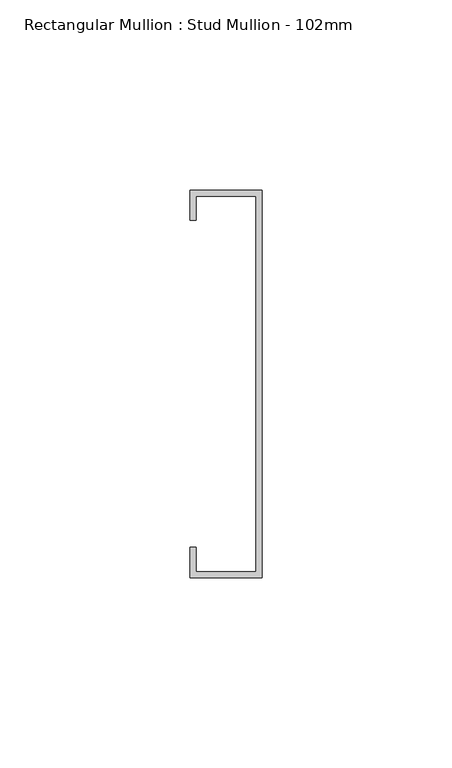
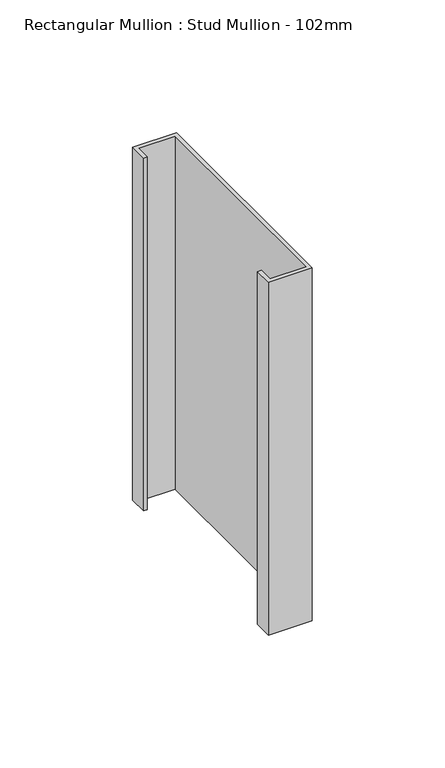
"""IFC4 building model written with IfcOpenShell, lengths in millimetres: member geometry, Rectangular Mullion : Stud Mullion - 102mm."""

from ifc_helpers import new_model, si_unit, frame, origin, place, context, project, spatial, polyline, outline, extrude, source, transform, mapped, element, save


def rectangular_mullion_stud_mullion_102mm_f96a71aa(model_context):
    return source(origin(), model_context, "Body", "SweptSolid", [
        extrude(outline(polyline([(-19.0, 43.0), (-19.0, 51.0), (0.0, 51.0), (0.0, -51.0), (-19.0, -51.0), (-19.0, -43.0), (-17.4, -43.0), (-17.4, -49.4), (-1.6, -49.4), (-1.6, 49.4), (-17.4, 49.4), (-17.4, 43.0), (-19.0, 43.0)])), frame((0.0, 0.0, -161.9999997), z_axis=(0.0, 0.0, 1.0), x_axis=(1.0, 0.0, 0.0)), (0.0, 0.0, 1.0), 161.9999997),
    ])


if __name__ == "__main__":
    model = new_model("IFC4")
    model_context = context("Model", 3, world=origin())
    ifc_project = project(units=[si_unit("LENGTHUNIT", "METRE", prefix="MILLI")], contexts=[model_context])
    site = spatial("IfcSite", under=ifc_project)
    building = spatial("IfcBuilding", under=site)
    placement = place(None, origin())
    rectangular_mullion_stud_mullion_102mm_shape = rectangular_mullion_stud_mullion_102mm_f96a71aa(model_context)
    element("IfcMember", 1, ObjectType="Rectangular Mullion : Stud Mullion - 102mm", at=placement, inside=building, context=model_context, shape_type="MappedRepresentation", body=[
        mapped(rectangular_mullion_stud_mullion_102mm_shape, transform((0.0, 0.0, 0.0), x_axis=(1.0, 0.0, 0.0), y_axis=(0.0, 1.0, 0.0), z_axis=(0.0, 0.0, 1.0))),
    ])
    save(model, "model.ifc")
